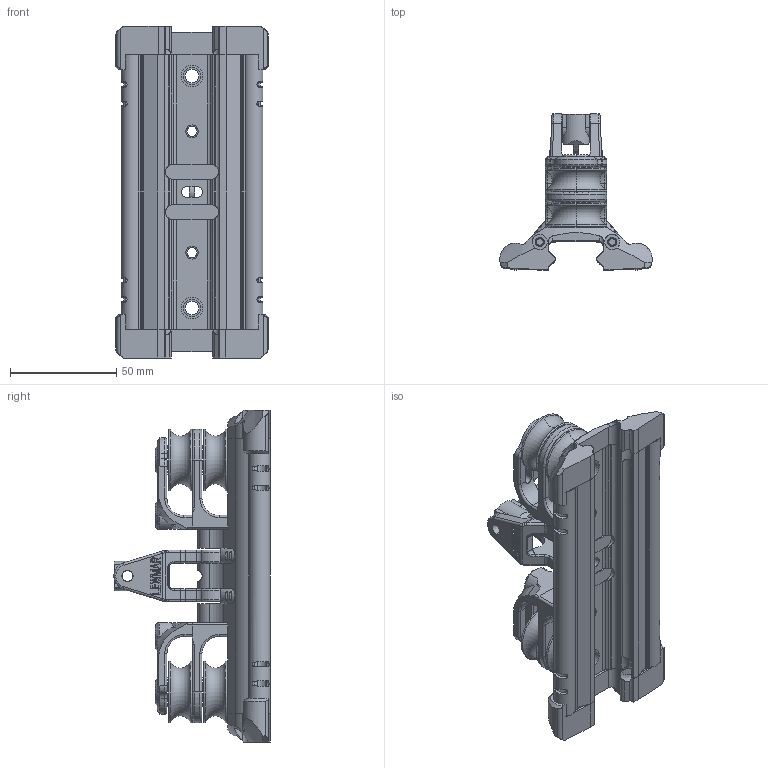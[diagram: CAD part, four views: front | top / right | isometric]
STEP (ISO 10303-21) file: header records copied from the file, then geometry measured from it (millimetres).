
FILE_DESCRIPTION((''),'2;1');
FILE_NAME('29431412_ASM','2007-04-10T',('NBelton'),(''),'PRO/ENGINEER BY PARAMETRIC TECHNOLOGY CORPORATION, 2005450','PRO/ENGINEER BY PARAMETRIC TECHNOLOGY CORPORATION, 2005450','');
FILE_SCHEMA(('CONFIG_CONTROL_DESIGN'));
Length unit declared in the file: millimetre
Products named in the file (13): 25002913; 25003255; 25003492; 25004163; 28003228_ASM; 25000017; 28003240_ASM; 25002957; 25003501; 25003502; 28003502_ASM; 25000027; 29431412_ASM
Assembly tree (17 placements, depth 3):
  29431412_ASM
    28003228_ASM
      25002913
      25003255  x2
      25003492  x2
      25004163  x2
    28003240_ASM
      25000017
    28003502_ASM  x2
      25002957
      25003501
      25003502
    25000027
Bounding box: 71.68 x 73.39 x 156 mm (x, y, z)
Volume: 139475.3 mm3; surface area: 89835 mm2
Topology: 17 solids, 23 shells, 6625 faces, 18618 edges, 12338 vertices
Faces by surface type: plane 5888, cylinder 507, torus 98, cone 84, bspline 46, revolution 2
Entity records: 75335 total; most frequent: CARTESIAN_POINT 18132, ORIENTED_EDGE 12304, DIRECTION 11013, EDGE_CURVE 6164, VECTOR 5134, LINE 5134, VERTEX_POINT 4063, AXIS2_PLACEMENT_3D 2939
